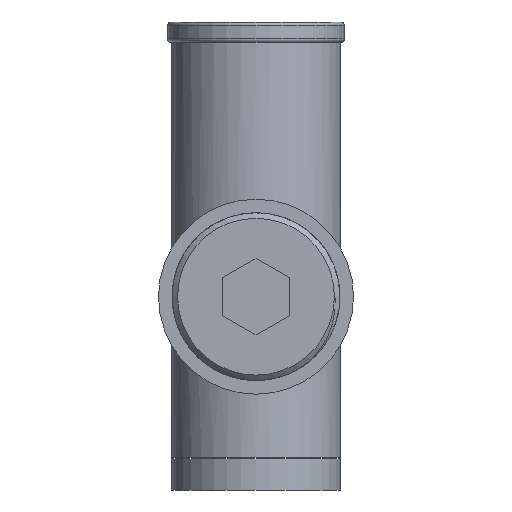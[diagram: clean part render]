
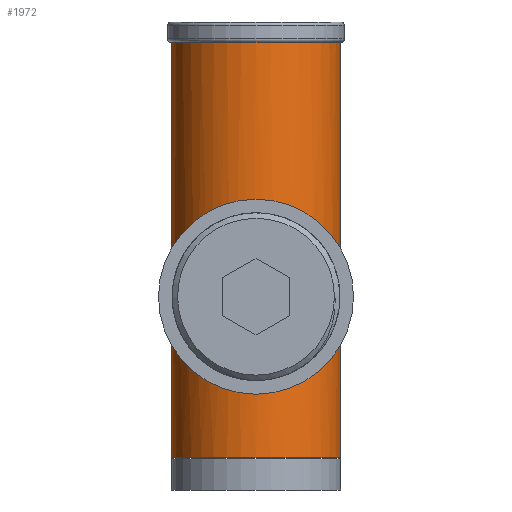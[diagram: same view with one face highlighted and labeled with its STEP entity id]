
A CAD part, front view. The second image highlights one B-rep face of the part: STEP entity #1972.
In plain terms, the highlighted cylindrical face has radius 10 mm (diameter 20 mm), a full revolution.
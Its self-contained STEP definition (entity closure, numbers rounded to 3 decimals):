
#186=LINE('',#3121,#296);
#187=LINE('',#3122,#297);
#296=VECTOR('',#2473,10.);
#297=VECTOR('',#2474,10.);
#405=ELLIPSE('',#2123,14.142,10.);
#406=ELLIPSE('',#2124,14.142,10.);
#408=CYLINDRICAL_SURFACE('',#2156,10.);
#480=FACE_OUTER_BOUND('',#637,.T.);
#637=EDGE_LOOP('',(#1457,#1458,#1459,#1460,#1461,#1462,#1463,#1464));
#824=CIRCLE('',#2127,10.);
#851=CIRCLE('',#2155,10.);
#964=VERTEX_POINT('',#3056);
#965=VERTEX_POINT('',#3057);
#966=VERTEX_POINT('',#3063);
#993=VERTEX_POINT('',#3118);
#1146=EDGE_CURVE('',#964,#965,#405,.T.);
#1147=EDGE_CURVE('',#965,#964,#406,.T.);
#1149=EDGE_CURVE('',#966,#966,#824,.T.);
#1176=EDGE_CURVE('',#993,#993,#851,.T.);
#1177=EDGE_CURVE('',#966,#964,#186,.T.);
#1178=EDGE_CURVE('',#964,#993,#187,.T.);
#1457=ORIENTED_EDGE('',*,*,#1149,.F.);
#1458=ORIENTED_EDGE('',*,*,#1177,.T.);
#1459=ORIENTED_EDGE('',*,*,#1147,.F.);
#1460=ORIENTED_EDGE('',*,*,#1146,.F.);
#1461=ORIENTED_EDGE('',*,*,#1178,.T.);
#1462=ORIENTED_EDGE('',*,*,#1176,.F.);
#1463=ORIENTED_EDGE('',*,*,#1178,.F.);
#1464=ORIENTED_EDGE('',*,*,#1177,.F.);
#1972=ADVANCED_FACE('',(#480),#408,.T.);
#2123=AXIS2_PLACEMENT_3D('',#3058,#2404,#2405);
#2124=AXIS2_PLACEMENT_3D('',#3059,#2406,#2407);
#2127=AXIS2_PLACEMENT_3D('',#3064,#2413,#2414);
#2155=AXIS2_PLACEMENT_3D('',#3119,#2469,#2470);
#2156=AXIS2_PLACEMENT_3D('',#3120,#2471,#2472);
#2404=DIRECTION('center_axis',(0.,-0.707,0.707));
#2405=DIRECTION('ref_axis',(0.,0.707,0.707));
#2406=DIRECTION('center_axis',(0.,-0.707,-0.707));
#2407=DIRECTION('ref_axis',(0.,0.707,-0.707));
#2413=DIRECTION('center_axis',(0.,0.,1.));
#2414=DIRECTION('ref_axis',(1.,0.,0.));
#2469=DIRECTION('center_axis',(0.,0.,-1.));
#2470=DIRECTION('ref_axis',(1.,0.,0.));
#2471=DIRECTION('center_axis',(0.,0.,1.));
#2472=DIRECTION('ref_axis',(1.,0.,0.));
#2473=DIRECTION('',(0.,0.,-1.));
#2474=DIRECTION('',(0.,0.,-1.));
#3056=CARTESIAN_POINT('',(-10.,103.3,0.));
#3057=CARTESIAN_POINT('',(10.,103.3,0.));
#3058=CARTESIAN_POINT('Origin',(0.,103.3,0.));
#3059=CARTESIAN_POINT('Origin',(0.,103.3,0.));
#3063=CARTESIAN_POINT('',(-10.,103.3,30.));
#3064=CARTESIAN_POINT('Origin',(0.,103.3,30.));
#3118=CARTESIAN_POINT('',(-10.,103.3,-19.));
#3119=CARTESIAN_POINT('Origin',(0.,103.3,-19.));
#3120=CARTESIAN_POINT('Origin',(0.,103.3,0.));
#3121=CARTESIAN_POINT('',(-10.,103.3,0.));
#3122=CARTESIAN_POINT('',(-10.,103.3,0.));
